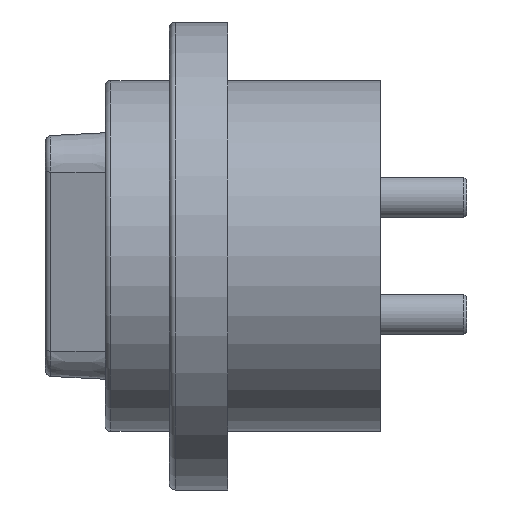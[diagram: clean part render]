
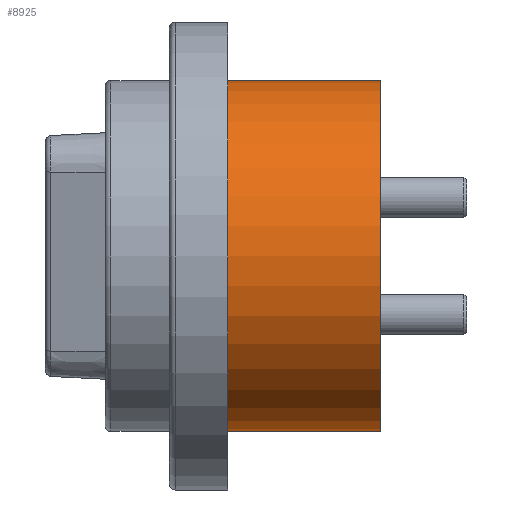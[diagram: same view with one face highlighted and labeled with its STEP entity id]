
A CAD part, left-side view. The second image highlights one B-rep face of the part: STEP entity #8925.
In plain terms, the highlighted cylindrical face has radius 3 mm (diameter 6 mm), a partial arc.
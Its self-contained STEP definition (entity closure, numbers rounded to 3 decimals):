
#4141=CARTESIAN_POINT('',(-11.042,2.92,
-3.595));
#4142=DIRECTION('',(0.,-1.,0.));
#4143=DIRECTION('',(0.,0.,1.));
#4144=AXIS2_PLACEMENT_3D('',#4141,#4142,#4143);
#5454=CARTESIAN_POINT('',(-11.042,6.02,
-3.595));
#5455=DIRECTION('',(0.,1.,0.));
#5456=DIRECTION('',(0.,0.,-1.));
#5457=AXIS2_PLACEMENT_3D('',#5454,#5455,#5456);
#5562=DIRECTION('',(0.,-1.,0.));
#5563=VECTOR('',#5562,3.1);
#5564=CARTESIAN_POINT('',(-11.042,6.02,
-6.595));
#5565=LINE('',#5564,#5563);
#5566=DIRECTION('',(0.,1.,0.));
#5567=VECTOR('',#5566,3.1);
#5568=CARTESIAN_POINT('',(-11.042,2.92,
-0.595));
#5569=LINE('',#5568,#5567);
#6424=CARTESIAN_POINT('',(-11.042,2.92,
-0.595));
#6425=VERTEX_POINT('',#6424);
#6426=CARTESIAN_POINT('',(-11.042,2.92,
-6.595));
#6427=VERTEX_POINT('',#6426);
#6660=CARTESIAN_POINT('',(-11.042,6.02,
-0.595));
#6662=VERTEX_POINT('',#6660);
#6665=CARTESIAN_POINT('',(-11.042,6.02,
-6.595));
#6666=VERTEX_POINT('',#6665);
#8913=CARTESIAN_POINT('',(-11.042,5.52,
-3.595));
#8914=DIRECTION('',(0.,1.,0.));
#8915=DIRECTION('',(0.,0.,1.));
#8916=AXIS2_PLACEMENT_3D('',#8913,#8914,#8915);
#8917=CYLINDRICAL_SURFACE('',#8916,3.);
#8919=ORIENTED_EDGE('',*,*,#8918,.F.);
#8920=ORIENTED_EDGE('',*,*,#8787,.T.);
#8921=ORIENTED_EDGE('',*,*,#8809,.F.);
#8922=ORIENTED_EDGE('',*,*,#7018,.T.);
#8923=EDGE_LOOP('',(#8919,#8920,#8921,#8922));
#8924=FACE_OUTER_BOUND('',#8923,.F.);
#8925=ADVANCED_FACE('',(#8924),#8917,.T.);
#4145=CIRCLE('',#4144,3.);
#5458=CIRCLE('',#5457,3.);
#7018=EDGE_CURVE('',#6425,#6427,#4145,.T.);
#8787=EDGE_CURVE('',#6666,#6662,#5458,.T.);
#8809=EDGE_CURVE('',#6425,#6662,#5569,.T.);
#8918=EDGE_CURVE('',#6666,#6427,#5565,.T.);
